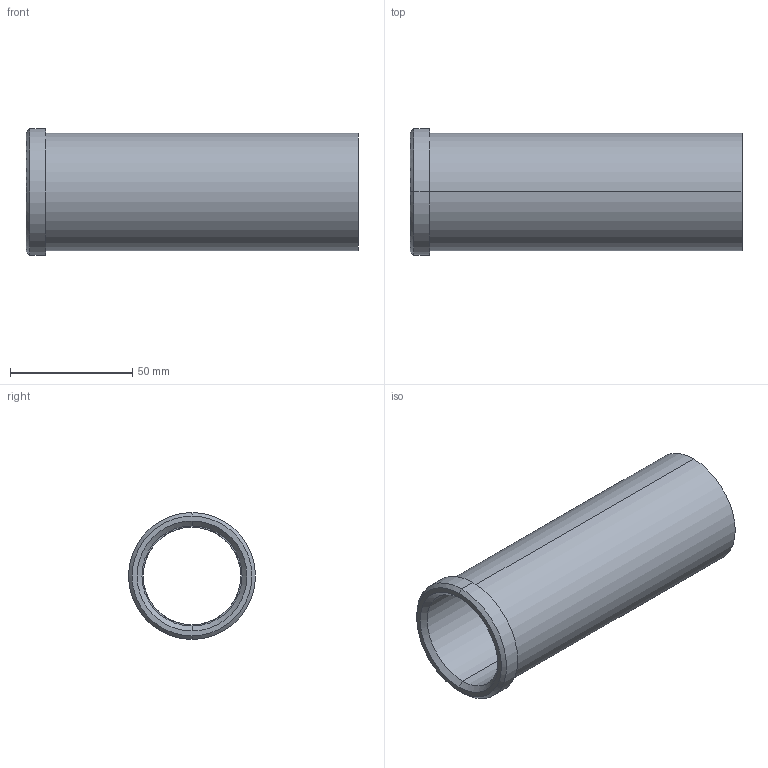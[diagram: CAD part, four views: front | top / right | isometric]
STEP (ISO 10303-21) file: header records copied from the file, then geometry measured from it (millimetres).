
FILE_DESCRIPTION(('CATIA V5 STEP Exchange'),'2;1');
FILE_NAME('C:\Users\Utente\Desktop\IO LAVORO\3D X SITO CF\X SITO\PLASTICA\353\353-40X136.stp','2021-05-13T18:19:07+00:00',('none'),('none'),'CATIA Version 5 Release 20 GA (IN-10)','CATIA V5 STEP AP203','none');
FILE_SCHEMA(('CONFIG_CONTROL_DESIGN'));
Length unit declared in the file: millimetre
Products named in the file (1): 353-40X136
Bounding box: 136 x 52 x 52 mm (x, y, z)
Volume: 73591.3 mm3; surface area: 39210.9 mm2
Topology: 1 solids, 1 shells, 18 faces, 58 edges, 44 vertices
Faces by surface type: cylinder 8, plane 4, cone 4, torus 2
Entity records: 840 total; most frequent: CARTESIAN_POINT 289, ORIENTED_EDGE 116, DIRECTION 82, EDGE_CURVE 58, AXIS2_PLACEMENT_3D 53, VERTEX_POINT 44, CIRCLE 34, EDGE_LOOP 22
